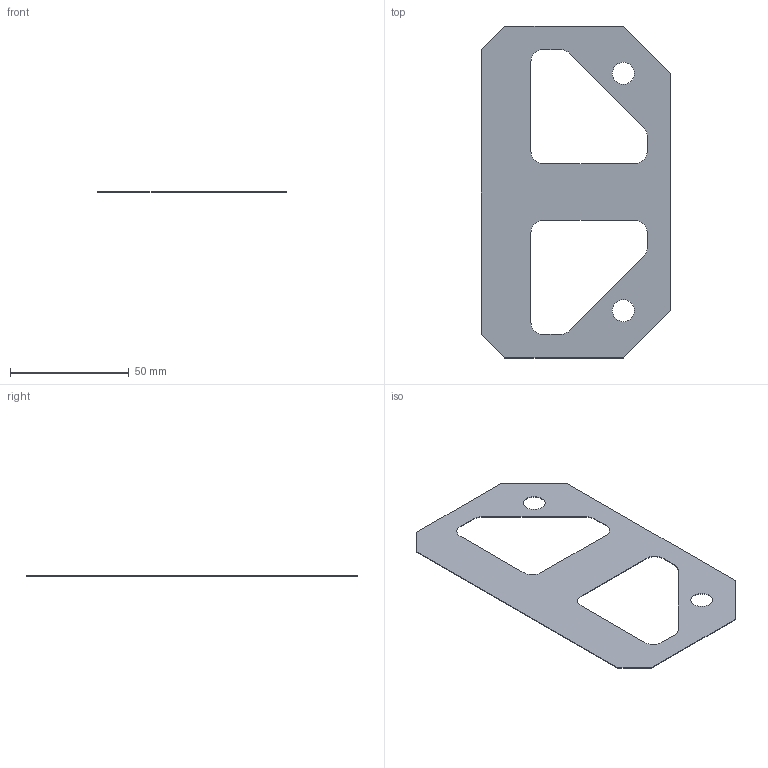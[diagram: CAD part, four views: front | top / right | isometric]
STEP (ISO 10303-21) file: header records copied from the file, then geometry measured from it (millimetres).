
FILE_DESCRIPTION(/* description */ ('CALE MYLAR SUPPORT 2','CAx-IF Rec.Pracs.---Representation and Presentation of Product Manufacturing Information (PMI)---4.0---2014-10-13'),/* implementation_level */ '2;1');
FILE_NAME(/* name */ 'vv330211-A.stp',/* time_stamp */ '2025-09-24T13:45:45+02:00',/* author */ ('mmartin'),/* organization */ (''),/* preprocessor_version */ 'ST-DEVELOPER v20',/* originating_system */ 'Autodesk Inventor 2025',/* authorisation */ '');
FILE_SCHEMA (('AP242_MANAGED_MODEL_BASED_3D_ENGINEERING_MIM_LF { 1 0 10303 442 1 1 4 }'));
Length unit declared in the file: millimetre
Products named in the file (1): VICTOR.V.33.02.11
Bounding box: 80 x 140 x 0.25 mm (x, y, z)
Volume: 1765 mm3; surface area: 14319.7 mm2
Topology: 1 solids, 1 shells, 32 faces, 90 edges, 60 vertices
Faces by surface type: plane 20, cylinder 12
Full cylindrical faces by diameter (mm): 9.3 x2
Entity records: 1312 total; most frequent: CARTESIAN_POINT 256, DIRECTION 212, ORIENTED_EDGE 180, EDGE_CURVE 90, AXIS2_PLACEMENT_3D 73, LINE 66, VECTOR 66, VERTEX_POINT 60
